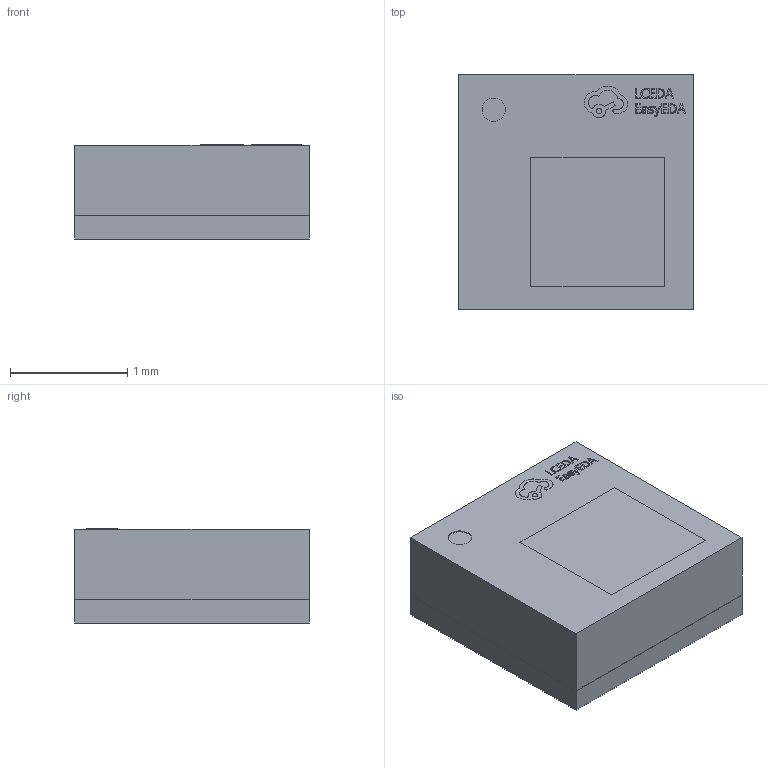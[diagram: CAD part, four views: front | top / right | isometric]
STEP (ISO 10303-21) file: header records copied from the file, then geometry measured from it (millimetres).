
FILE_DESCRIPTION (( 'STEP AP214' ), '1' );
FILE_NAME ('HLGA-10L_L2.0-W2.0-H0.8-P0.5-LPS22HBTR.step', '2022-07-04T13:14:38', ( '' ), ( '' ), 'SwSTEP 2.0', 'SolidWorks 2020', '' );
FILE_SCHEMA (( 'AUTOMOTIVE_DESIGN' ));
Length unit declared in the file: millimetre
Products named in the file (1): HLGA-10L_L2.0-W2.0-H0.8-P0.5-LPS22HBTR
Bounding box: 2 x 2 x 0.8 mm (x, y, z)
Volume: 3.2 mm3; surface area: 22.4 mm2
Topology: 2 solids, 2 shells, 309 faces, 846 edges, 579 vertices
Faces by surface type: plane 195, bspline 112, cylinder 2
Entity records: 14057 total; most frequent: CARTESIAN_POINT 3839, ORIENTED_EDGE 1692, DIRECTION 1018, EDGE_CURVE 846, LINE 614, VECTOR 614, VERTEX_POINT 579, EDGE_LOOP 347
